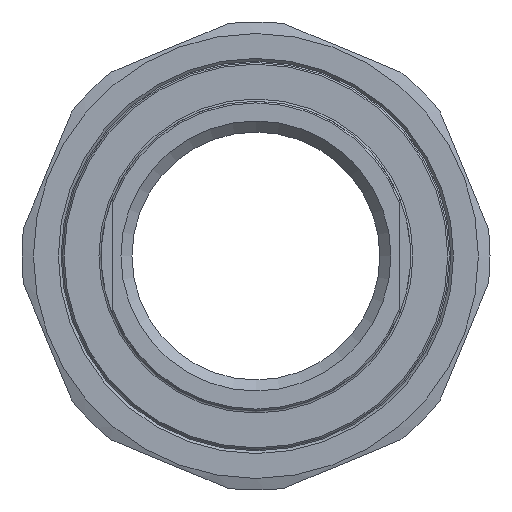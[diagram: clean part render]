
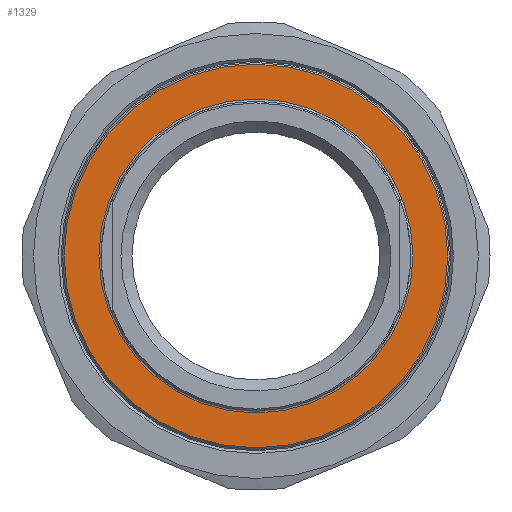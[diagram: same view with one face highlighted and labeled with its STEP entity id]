
A CAD part, left-side view. The second image highlights one B-rep face of the part: STEP entity #1329.
In plain terms, the highlighted planar face has unit normal (-1, 0, 0).
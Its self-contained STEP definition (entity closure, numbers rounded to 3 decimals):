
#59=FACE_BOUND('',#298,.T.);
#133=PLANE('',#1584);
#206=FACE_OUTER_BOUND('',#297,.T.);
#297=EDGE_LOOP('',(#1204));
#298=EDGE_LOOP('',(#1205));
#523=CIRCLE('',#1581,28.4);
#525=CIRCLE('',#1585,34.7);
#651=VERTEX_POINT('',#2469);
#652=VERTEX_POINT('',#2476);
#836=EDGE_CURVE('',#651,#651,#523,.T.);
#839=EDGE_CURVE('',#652,#652,#525,.T.);
#1204=ORIENTED_EDGE('',*,*,#839,.F.);
#1205=ORIENTED_EDGE('',*,*,#836,.F.);
#1329=ADVANCED_FACE('',(#206,#59),#133,.T.);
#1581=AXIS2_PLACEMENT_3D('',#2471,#2004,#2005);
#1584=AXIS2_PLACEMENT_3D('',#2475,#2011,#2012);
#1585=AXIS2_PLACEMENT_3D('',#2477,#2013,#2014);
#2004=DIRECTION('center_axis',(-1.,0.,0.));
#2005=DIRECTION('ref_axis',(0.,-1.,0.));
#2011=DIRECTION('center_axis',(-1.,0.,0.));
#2012=DIRECTION('ref_axis',(0.,0.,1.));
#2013=DIRECTION('center_axis',(1.,0.,0.));
#2014=DIRECTION('ref_axis',(0.,-1.,0.));
#2469=CARTESIAN_POINT('',(-14.5,0.,28.4));
#2471=CARTESIAN_POINT('Origin',(-14.5,0.,0.));
#2475=CARTESIAN_POINT('Origin',(-14.5,35.,0.));
#2476=CARTESIAN_POINT('',(-14.5,34.7,0.));
#2477=CARTESIAN_POINT('Origin',(-14.5,0.,0.));
